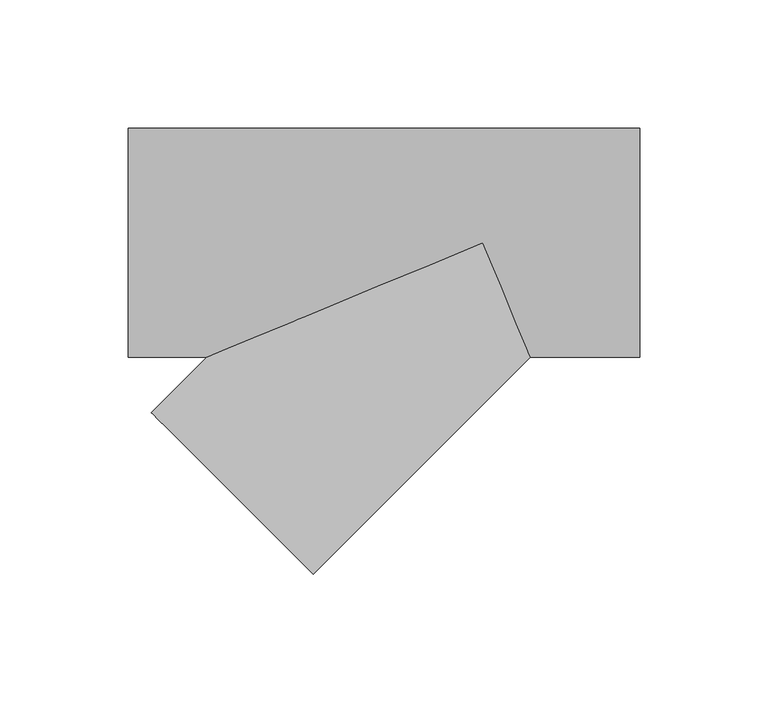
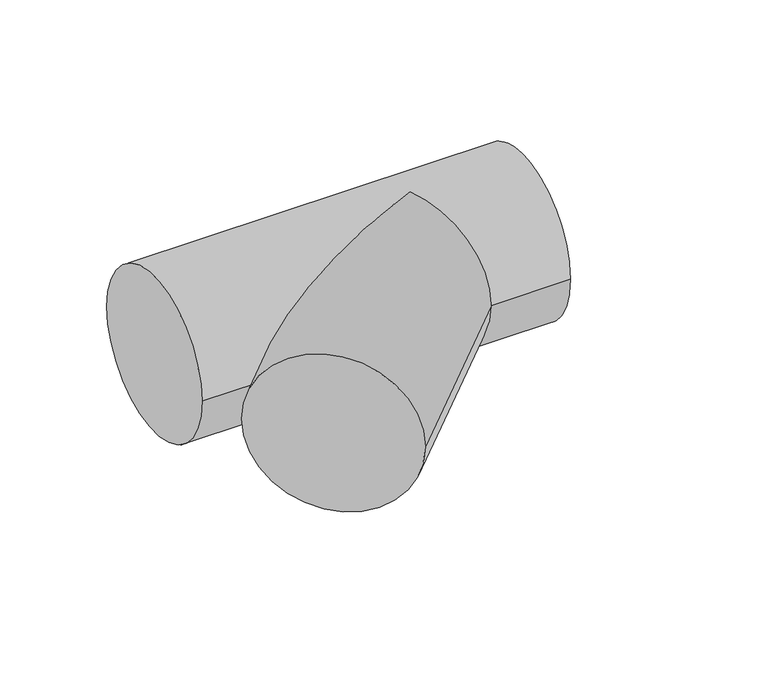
"""IFC4 building model written with IfcOpenShell, lengths in millimetres: pipe fitting geometry, 010513441 : Tes 45º."""

from ifc_helpers import new_model, si_unit, frame, origin, place, context, project, spatial, circle_curve, ellipse_curve, source, transform, mapped, element, save
from ifc_brep_helpers import plane_surface, cylinder_surface, advanced_brep


def pipe_fitting_e2157118(model_context):
    return source(origin(), model_context, "Body", "AdvancedBrep", [
        advanced_brep(
        [(-138.0, -44.5, 0.0), (-138.0, 44.5, 0.0), (61.0, -44.5, 0.0), (61.0, 44.5, 0.0), (-107.4325035, -44.5, 0.0), (0.0, 0.0, 44.5), (18.4325035, -44.5, 0.0), (0.0, 0.0, -44.5), (-129.0469876, -66.114484, 0.0), (-66.114484, -129.0469876, 0.0)],
        [
            (0, 1, circle_curve(frame((-138.0, 0.0, 0.0), z_axis=(-1.0, 0.0, 0.0), x_axis=(0.0, 1.0, 0.0)), 44.5)),
            (1, 0, circle_curve(frame((-138.0, 0.0, 0.0), z_axis=(-1.0, 0.0, 0.0), x_axis=(0.0, 1.0, 0.0)), 44.5)),
            (2, 3, circle_curve(frame((61.0, 0.0, 0.0), z_axis=(1.0, 0.0, 0.0), x_axis=(0.0, 1.0, 0.0)), 44.5)),
            (3, 2, circle_curve(frame((61.0, 0.0, 0.0), z_axis=(1.0, 0.0, 0.0), x_axis=(0.0, 1.0, 0.0)), 44.5)),
            (0, 4),
            (4, 5, ellipse_curve(frame((0.0, 0.0, 0.0), z_axis=(-0.38268343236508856, 0.9238795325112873, 0.0), x_axis=(-0.9238795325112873, -0.38268343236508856, 0.0)), 116.2841039, 44.5)),
            (5, 6, ellipse_curve(frame((0.0, 0.0, 0.0), z_axis=(0.9238795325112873, 0.38268343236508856, 0.0), x_axis=(-0.3826834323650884, 0.9238795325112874, 0.0)), 48.1664529, 44.5)),
            (6, 2),
            (3, 1),
            (6, 7, ellipse_curve(frame((0.0, 0.0, 0.0), z_axis=(0.9238795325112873, 0.38268343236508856, 0.0), x_axis=(-0.3826834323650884, 0.9238795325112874, 0.0)), 48.1664529, 44.5)),
            (7, 4, ellipse_curve(frame((0.0, 0.0, 0.0), z_axis=(-0.38268343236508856, 0.9238795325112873, 0.0), x_axis=(-0.9238795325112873, -0.38268343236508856, 0.0)), 116.2841039, 44.5)),
            (8, 9, circle_curve(frame((-97.5807358, -97.5807358, 0.0), z_axis=(-0.7071067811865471, -0.7071067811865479, 0.0), x_axis=(0.7071067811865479, -0.7071067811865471, 0.0)), 44.5)),
            (9, 8, circle_curve(frame((-97.5807358, -97.5807358, 0.0), z_axis=(-0.7071067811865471, -0.7071067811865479, 0.0), x_axis=(0.7071067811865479, -0.7071067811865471, 0.0)), 44.5)),
            (9, 6),
            (4, 8),
        ],
        [
            plane_surface(frame((-138.0, 0.0, 0.0), z_axis=(-1.0, 0.0, 0.0), x_axis=(0.0, 0.0, 1.0))),
            plane_surface(frame((61.0, 0.0, 0.0), z_axis=(1.0, 0.0, 0.0), x_axis=(0.0, 0.0, 1.0))),
            cylinder_surface(frame((-138.0, 0.0, 0.0), z_axis=(-1.0, 0.0, 0.0), x_axis=(0.0, 1.0, 0.0)), 44.5),
            plane_surface(frame((-97.5807358, -97.5807358, 0.0), z_axis=(-0.7071067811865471, -0.7071067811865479, 0.0), x_axis=(0.0, 0.0, 1.0))),
            cylinder_surface(frame((0.0, 0.0, 0.0), z_axis=(0.7071067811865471, 0.7071067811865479, 0.0), x_axis=(0.7071067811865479, -0.7071067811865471, 0.0)), 44.5),
        ],
        [
            (0, [[1, 2]]),
            (1, [[3, 4]]),
            (2, [[-1, 5, 6, 7, 8, -4, 9]]),
            (2, [[-2, -9, -3, -8, 10, 11, -5]]),
            (3, [[12, 13]]),
            (4, [[-13, 14, -7, -6, 15]]),
            (4, [[-12, -15, -11, -10, -14]]),
        ],
    ),
    ])


if __name__ == "__main__":
    model = new_model("IFC4")
    model_context = context("Model", 3, world=origin())
    ifc_project = project(units=[si_unit("LENGTHUNIT", "METRE", prefix="MILLI")], contexts=[model_context])
    site = spatial("IfcSite", under=ifc_project)
    building = spatial("IfcBuilding", under=site)
    placement = place(None, origin())
    pipe_fitting_shape = pipe_fitting_e2157118(model_context)
    element("IfcPipeFitting", 1, ObjectType="010513441 : Tes 45º", at=placement, inside=building, context=model_context, shape_type="MappedRepresentation", body=[
        mapped(pipe_fitting_shape, transform((0.0, 0.0, 0.0), x_axis=(1.0, 0.0, 0.0), y_axis=(0.0, 1.0, 0.0), z_axis=(0.0, 0.0, 1.0))),
    ])
    save(model, "model.ifc")
